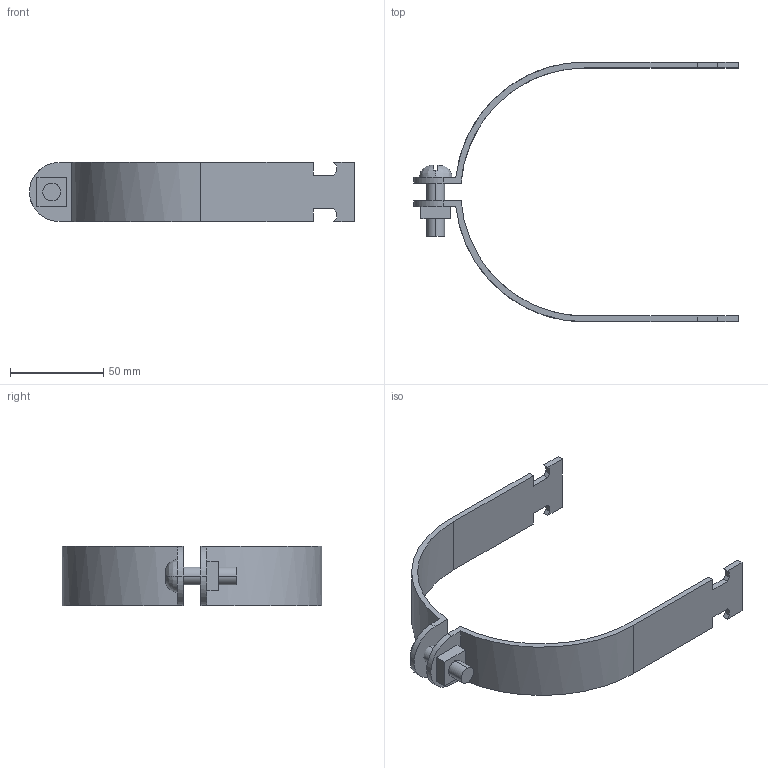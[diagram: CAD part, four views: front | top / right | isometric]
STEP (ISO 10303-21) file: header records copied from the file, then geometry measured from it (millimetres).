
FILE_DESCRIPTION(('TurboCAD Mac Pro'),'Build 980');
FILE_NAME('P2064.stp',' ',(''),(''),'ACIS Interop','IMSI','TurboCAD Mac Pro BY IMSI, INCORPORATED');
FILE_SCHEMA(('automotive_design'));
Length unit declared in the file: inch
Products named in the file (5): 1; 2; 3; 4; 5
Bounding box: 174.62 x 139.68 x 31.75 mm (x, y, z)
Volume: 44546.8 mm3; surface area: 31015.3 mm2
Topology: 4 solids, 4 shells, 71 faces, 186 edges, 124 vertices
Faces by surface type: plane 51, bspline 20
Entity records: 3487 total; most frequent: CARTESIAN_POINT 1050, ORIENTED_EDGE 372, DIRECTION 258, EDGE_CURVE 186, LINE 138, VECTOR 138, VERTEX_POINT 124, STYLED_ITEM 91
